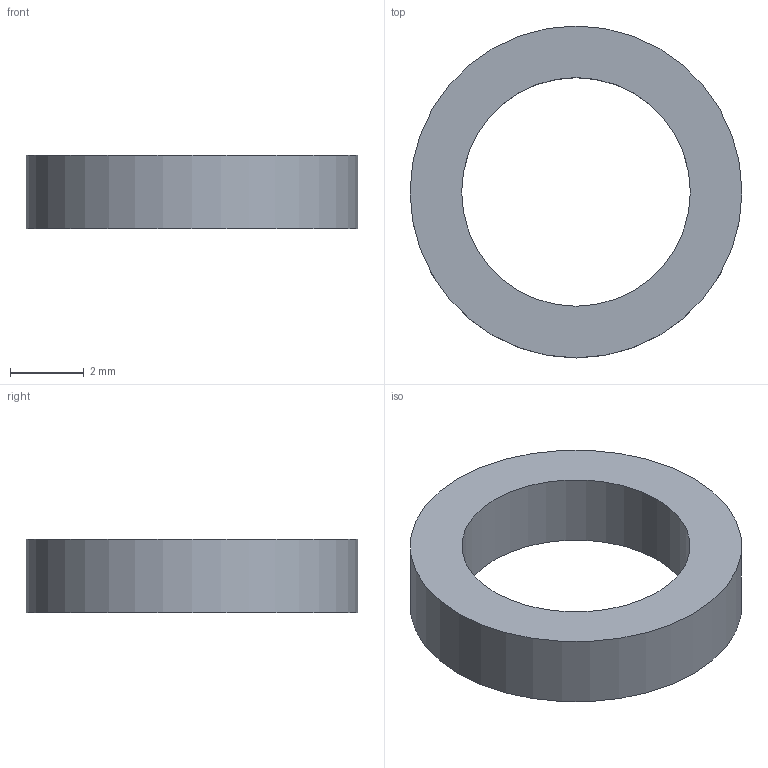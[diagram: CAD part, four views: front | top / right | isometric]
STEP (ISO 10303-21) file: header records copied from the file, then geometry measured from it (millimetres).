
FILE_DESCRIPTION(/* description */ ('Sliding disk Pulley 2'),/* implementation_level */ '2;1');
FILE_NAME(/* name */ 'Z:\Werkstatt Server\Projekte\Atlas\Entwicklung u. Konstruktion\Konstruktion\CAD Daten\ITkPixToolV2.0\Baremodule Jig\ITPTv2.01.00.25.stp',/* time_stamp */ '2021-08-06T14:58:00+02:00',/* author */ ('Tim Kanngießer'),/* organization */ (''),/* preprocessor_version */ 'ST-DEVELOPER v18.1',/* originating_system */ 'Autodesk Inventor 2022',/* authorisation */ '');
FILE_SCHEMA (('AUTOMOTIVE_DESIGN { 1 0 10303 214 3 1 1 }'));
Length unit declared in the file: millimetre
Products named in the file (1): ITPTv2.0.01.00.25
Bounding box: 9 x 9 x 2 mm (x, y, z)
Volume: 66.9 mm3; surface area: 162.4 mm2
Topology: 1 solids, 1 shells, 4 faces, 6 edges, 4 vertices
Faces by surface type: cylinder 2, plane 2
Full cylindrical faces by diameter (mm): 6.2 x1, 9 x1
Entity records: 139 total; most frequent: DIRECTION 20, CARTESIAN_POINT 15, ORIENTED_EDGE 12, AXIS2_PLACEMENT_3D 9, EDGE_LOOP 6, EDGE_CURVE 6, FACE_OUTER_BOUND 4, CIRCLE 4
